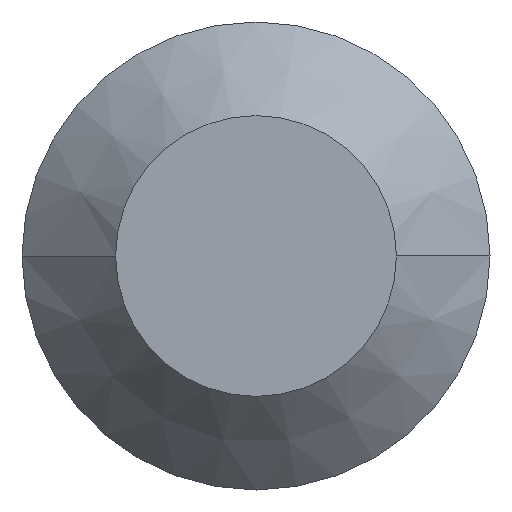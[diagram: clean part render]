
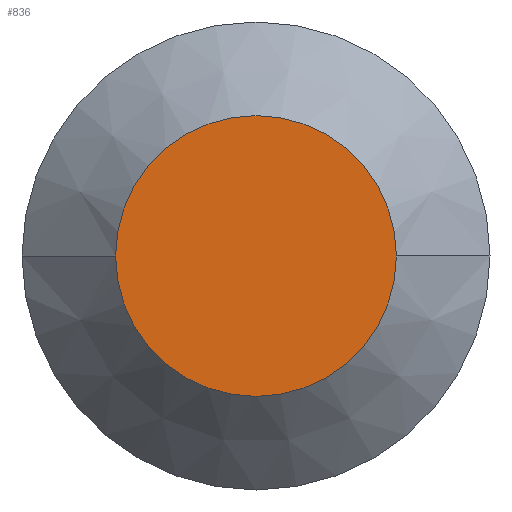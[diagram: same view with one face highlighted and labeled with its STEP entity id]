
A CAD part, front view. The second image highlights one B-rep face of the part: STEP entity #836.
In plain terms, the highlighted planar face has unit normal (0, -1, 0).
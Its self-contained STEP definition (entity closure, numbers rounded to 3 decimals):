
#10 = EDGE_LOOP ( 'NONE', ( #437, #425 ) ) ;
#345 = CARTESIAN_POINT ( 'NONE',  ( 4.5, 0., 0. ) ) ;
#357 = CARTESIAN_POINT ( 'NONE',  ( 0., 0., 0. ) ) ;
#358 = DIRECTION ( 'NONE',  ( 0., 1., 0. ) ) ;
#359 = DIRECTION ( 'NONE',  ( -1., 0., 0. ) ) ;
#392 = VERTEX_POINT ( 'NONE', #345 ) ;
#425 = ORIENTED_EDGE ( 'NONE', *, *, #472, .F. ) ;
#437 = ORIENTED_EDGE ( 'NONE', *, *, #477, .F. ) ;
#472 = EDGE_CURVE ( 'NONE', #392, #1279, #981, .T. ) ;
#477 = EDGE_CURVE ( 'NONE', #1279, #392, #915, .T. ) ;
#836 = ADVANCED_FACE ( 'NONE', ( #1545 ), #1546, .T. ) ;
#915 = CIRCLE ( 'NONE', #923, 4.5 ) ;
#923 = AXIS2_PLACEMENT_3D ( 'NONE', #1005, #1006, #1007 ) ;
#925 = AXIS2_PLACEMENT_3D ( 'NONE', #357, #358, #359 ) ;
#981 = CIRCLE ( 'NONE', #925, 4.5 ) ;
#1005 = CARTESIAN_POINT ( 'NONE',  ( 0., 0., 0. ) ) ;
#1006 = DIRECTION ( 'NONE',  ( 0., 1., 0. ) ) ;
#1007 = DIRECTION ( 'NONE',  ( -1., 0., 0. ) ) ;
#1279 = VERTEX_POINT ( 'NONE', #1345 ) ;
#1345 = CARTESIAN_POINT ( 'NONE',  ( -4.5, 0., 0. ) ) ;
#1540 = CARTESIAN_POINT ( 'NONE',  ( -4.5, 0., 0. ) ) ;
#1545 = FACE_OUTER_BOUND ( 'NONE', #10, .T. ) ;
#1546 = PLANE ( 'NONE',  #1576 ) ;
#1549 = DIRECTION ( 'NONE',  ( 0., -1., 0. ) ) ;
#1550 = DIRECTION ( 'NONE',  ( 1., 0., 0. ) ) ;
#1576 = AXIS2_PLACEMENT_3D ( 'NONE', #1540, #1549, #1550 ) ;
